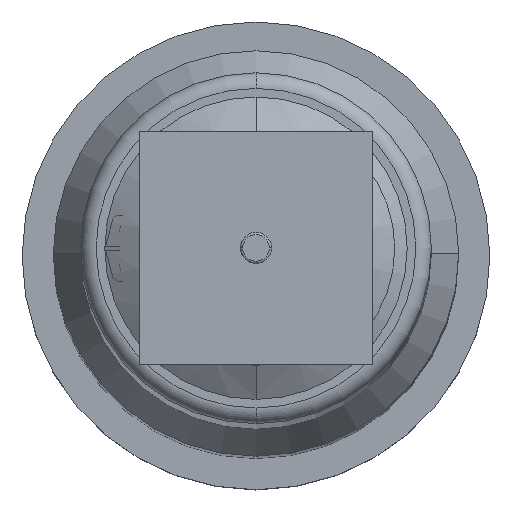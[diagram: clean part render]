
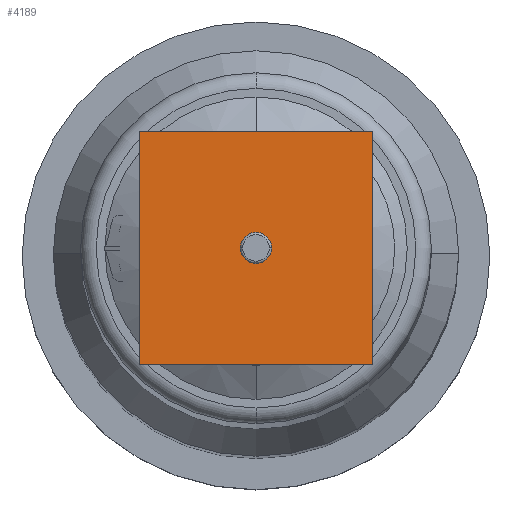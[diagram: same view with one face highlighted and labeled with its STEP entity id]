
A CAD part, top view. The second image highlights one B-rep face of the part: STEP entity #4189.
In plain terms, the highlighted planar face has unit normal (0, 0, 1).
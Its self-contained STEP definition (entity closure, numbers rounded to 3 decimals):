
#378 = VECTOR ( 'NONE', #2784, 1000. ) ;
#606 = FACE_OUTER_BOUND ( 'NONE', #11869, .T. ) ;
#1789 = VERTEX_POINT ( 'NONE', #4248 ) ;
#2176 = CARTESIAN_POINT ( 'NONE',  ( -15., 15., 615. ) ) ;
#2220 = DIRECTION ( 'NONE',  ( 0., -1., 0. ) ) ;
#2222 = CARTESIAN_POINT ( 'NONE',  ( -15., 15., 615. ) ) ;
#2299 = VECTOR ( 'NONE', #9125, 1000. ) ;
#2784 = DIRECTION ( 'NONE',  ( 1., 0., 0. ) ) ;
#3309 = VERTEX_POINT ( 'NONE', #10621 ) ;
#4189 = ADVANCED_FACE ( 'NONE', ( #606 ), #10730, .T. ) ;
#4248 = CARTESIAN_POINT ( 'NONE',  ( 15., -15., 615. ) ) ;
#4412 = EDGE_CURVE ( 'NONE', #1789, #3309, #7843, .T. ) ;
#4930 = EDGE_CURVE ( 'NONE', #3309, #5002, #12312, .T. ) ;
#4964 = VECTOR ( 'NONE', #11000, 1000. ) ;
#5000 = LINE ( 'NONE', #2176, #8955 ) ;
#5002 = VERTEX_POINT ( 'NONE', #9730 ) ;
#5109 = CARTESIAN_POINT ( 'NONE',  ( -15., -15., 615. ) ) ;
#5111 = VERTEX_POINT ( 'NONE', #5109 ) ;
#6624 = ORIENTED_EDGE ( 'NONE', *, *, #10126, .T. ) ;
#6684 = LINE ( 'NONE', #8670, #378 ) ;
#6851 = ORIENTED_EDGE ( 'NONE', *, *, #4412, .T. ) ;
#7733 = ORIENTED_EDGE ( 'NONE', *, *, #4930, .T. ) ;
#7843 = LINE ( 'NONE', #8400, #4964 ) ;
#8400 = CARTESIAN_POINT ( 'NONE',  ( 15., 15., 615. ) ) ;
#8670 = CARTESIAN_POINT ( 'NONE',  ( -15., -15., 615. ) ) ;
#8955 = VECTOR ( 'NONE', #2220, 1000. ) ;
#9125 = DIRECTION ( 'NONE',  ( -1., 0., 0. ) ) ;
#9730 = CARTESIAN_POINT ( 'NONE',  ( -15., 15., 615. ) ) ;
#9839 = CARTESIAN_POINT ( 'NONE',  ( 0., 0., 615. ) ) ;
#10126 = EDGE_CURVE ( 'NONE', #5111, #1789, #6684, .T. ) ;
#10621 = CARTESIAN_POINT ( 'NONE',  ( 15., 15., 615. ) ) ;
#10730 = PLANE ( 'NONE',  #12173 ) ;
#10858 = DIRECTION ( 'NONE',  ( 1., 0., 0. ) ) ;
#11000 = DIRECTION ( 'NONE',  ( 0., 1., 0. ) ) ;
#11668 = ORIENTED_EDGE ( 'NONE', *, *, #12214, .T. ) ;
#11670 = DIRECTION ( 'NONE',  ( 0., 0., 1. ) ) ;
#11869 = EDGE_LOOP ( 'NONE', ( #11668, #6624, #6851, #7733 ) ) ;
#12173 = AXIS2_PLACEMENT_3D ( 'NONE', #9839, #11670, #10858 ) ;
#12214 = EDGE_CURVE ( 'NONE', #5002, #5111, #5000, .T. ) ;
#12312 = LINE ( 'NONE', #2222, #2299 ) ;
